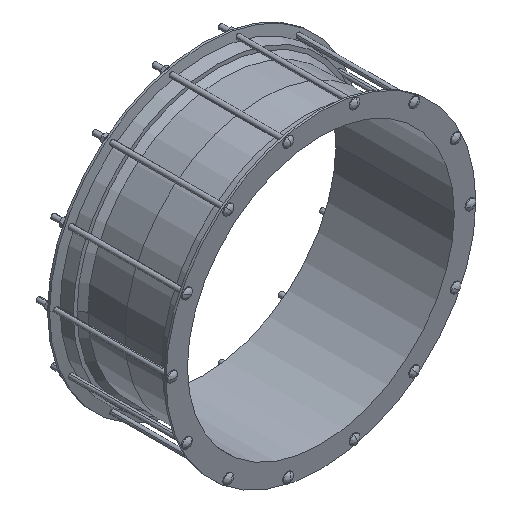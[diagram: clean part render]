
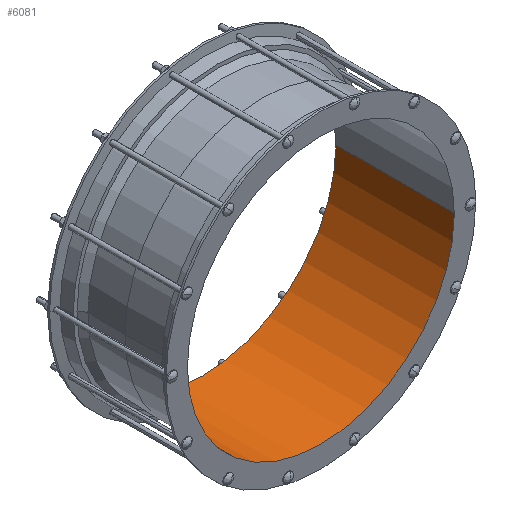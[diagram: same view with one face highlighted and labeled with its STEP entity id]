
A CAD part, isometric view. The second image highlights one B-rep face of the part: STEP entity #6081.
In plain terms, the highlighted cylindrical face has radius 340.5 mm (diameter 681 mm), a partial arc.
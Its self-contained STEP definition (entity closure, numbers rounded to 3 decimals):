
#2095=CARTESIAN_POINT('',(0.,151.,0.));
#2096=DIRECTION('',(0.,-1.,0.));
#2097=DIRECTION('',(-1.,0.,0.));
#2098=AXIS2_PLACEMENT_3D('',#2095,#2096,#2097);
#2245=CARTESIAN_POINT('',(0.,-151.,0.));
#2246=DIRECTION('',(0.,-1.,0.));
#2247=DIRECTION('',(-1.,0.,0.));
#2248=AXIS2_PLACEMENT_3D('',#2245,#2246,#2247);
#2250=DIRECTION('',(0.,1.,0.));
#2251=VECTOR('',#2250,302.);
#2252=CARTESIAN_POINT('',(-340.5,-151.,0.));
#2253=LINE('',#2252,#2251);
#2259=DIRECTION('',(0.,1.,0.));
#2260=VECTOR('',#2259,302.);
#2261=CARTESIAN_POINT('',(340.5,-151.,0.));
#2262=LINE('',#2261,#2260);
#4530=CARTESIAN_POINT('',(-340.5,-151.,0.));
#4531=CARTESIAN_POINT('',(-340.5,151.,0.));
#4532=VERTEX_POINT('',#4530);
#4533=VERTEX_POINT('',#4531);
#4548=CARTESIAN_POINT('',(340.5,-151.,0.));
#4549=CARTESIAN_POINT('',(340.5,151.,0.));
#4550=VERTEX_POINT('',#4548);
#4551=VERTEX_POINT('',#4549);
#6067=CARTESIAN_POINT('',(0.,166.1,0.));
#6068=DIRECTION('',(0.,-1.,0.));
#6069=DIRECTION('',(-1.,0.,0.));
#6070=AXIS2_PLACEMENT_3D('',#6067,#6068,#6069);
#6071=CYLINDRICAL_SURFACE('',#6070,340.5);
#6073=ORIENTED_EDGE('',*,*,#6072,.T.);
#6074=ORIENTED_EDGE('',*,*,#5977,.T.);
#6076=ORIENTED_EDGE('',*,*,#6075,.F.);
#6078=ORIENTED_EDGE('',*,*,#6077,.F.);
#6079=EDGE_LOOP('',(#6073,#6074,#6076,#6078));
#6080=FACE_OUTER_BOUND('',#6079,.F.);
#6081=ADVANCED_FACE('',(#6080),#6071,.F.);
#2099=CIRCLE('',#2098,340.5);
#2249=CIRCLE('',#2248,340.5);
#5977=EDGE_CURVE('',#4533,#4551,#2099,.T.);
#6072=EDGE_CURVE('',#4532,#4533,#2253,.T.);
#6075=EDGE_CURVE('',#4550,#4551,#2262,.T.);
#6077=EDGE_CURVE('',#4532,#4550,#2249,.T.);
